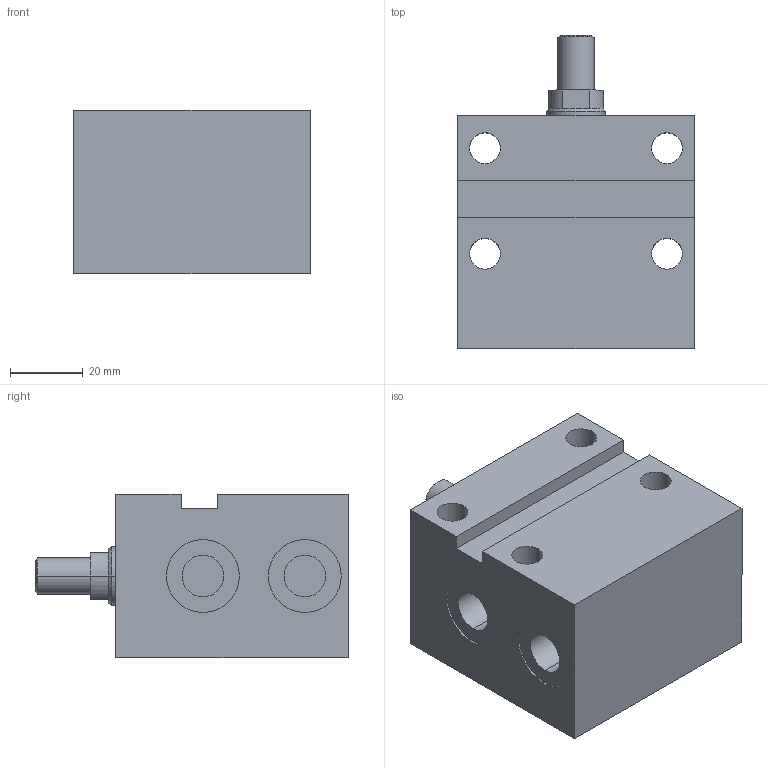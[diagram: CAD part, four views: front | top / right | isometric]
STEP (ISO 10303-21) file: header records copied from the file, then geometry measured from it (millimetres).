
FILE_DESCRIPTION (( 'STEP AP203' ), '1' );
FILE_NAME ('GERMA_Blockzylinder_601-025-020-A.STEP', '2015-06-20T17:53:28', ( '' ), ( '' ), 'SwSTEP 2.0', 'SolidWorks 2013', '' );
FILE_SCHEMA (( 'CONFIG_CONTROL_DESIGN' ));
Length unit declared in the file: millimetre
Products named in the file (3): GERMA_Blockzylinder_601-025-020-A; GH-600-025_GH-601-025-020; Kolben 60x-025_Kolben DU.25-Hub20-AG
Assembly tree (2 placements, depth 2):
  GERMA_Blockzylinder_601-025-020-A
    GH-600-025_GH-601-025-020
    Kolben 60x-025_Kolben DU.25-Hub20-AG
Bounding box: 65 x 86 x 45 mm (x, y, z)
Volume: 167578.8 mm3; surface area: 34994.2 mm2
Topology: 2 solids, 2 shells, 73 faces, 162 edges, 101 vertices
Faces by surface type: cylinder 35, plane 26, cone 12
Entity records: 2330 total; most frequent: DIRECTION 395, CARTESIAN_POINT 337, ORIENTED_EDGE 316, AXIS2_PLACEMENT_3D 159, EDGE_CURVE 158, VERTEX_POINT 101, EDGE_LOOP 93, CIRCLE 81
